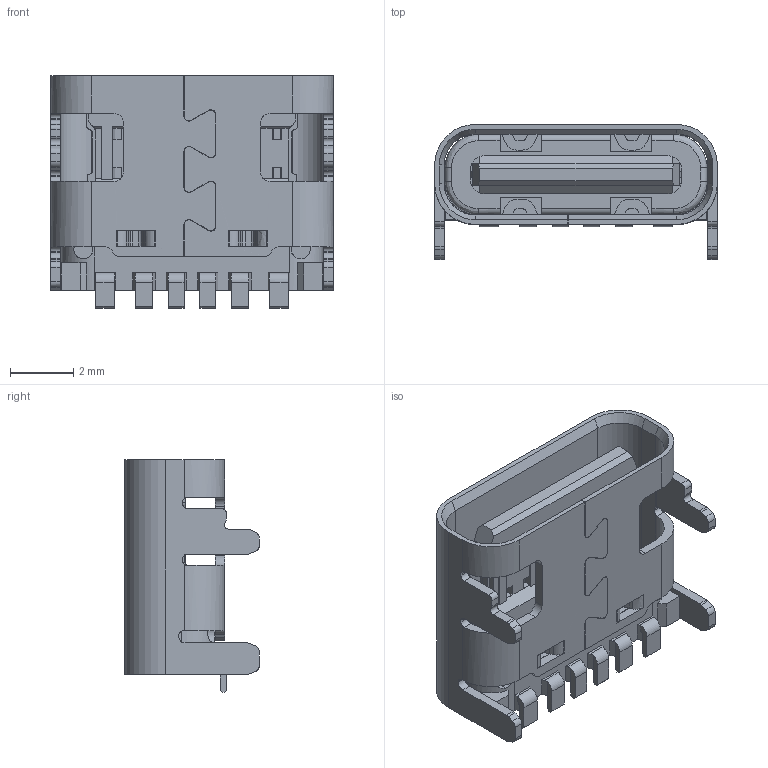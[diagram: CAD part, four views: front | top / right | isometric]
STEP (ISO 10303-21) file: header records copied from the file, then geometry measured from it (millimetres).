
FILE_DESCRIPTION (( 'STEP AP203' ), '1' );
FILE_NAME ('GT-USB-7002C.STEP', '2022-12-03T03:29:52', ( '' ), ( '' ), 'SwSTEP 2.0', 'SolidWorks 2021', '' );
FILE_SCHEMA (( 'CONFIG_CONTROL_DESIGN' ));
Length unit declared in the file: millimetre
Products named in the file (1): GT-USB-7002C
Bounding box: 8.94 x 4.26 x 7.37 mm (x, y, z)
Volume: 95 mm3; surface area: 476.3 mm2
Topology: 1 solids, 3 shells, 727 faces, 2131 edges, 1402 vertices
Faces by surface type: plane 525, cylinder 151, bspline 43, cone 8
Entity records: 25982 total; most frequent: CARTESIAN_POINT 7378, ORIENTED_EDGE 4262, DIRECTION 3243, EDGE_CURVE 2131, VECTOR 1581, LINE 1581, VERTEX_POINT 1402, AXIS2_PLACEMENT_3D 831
